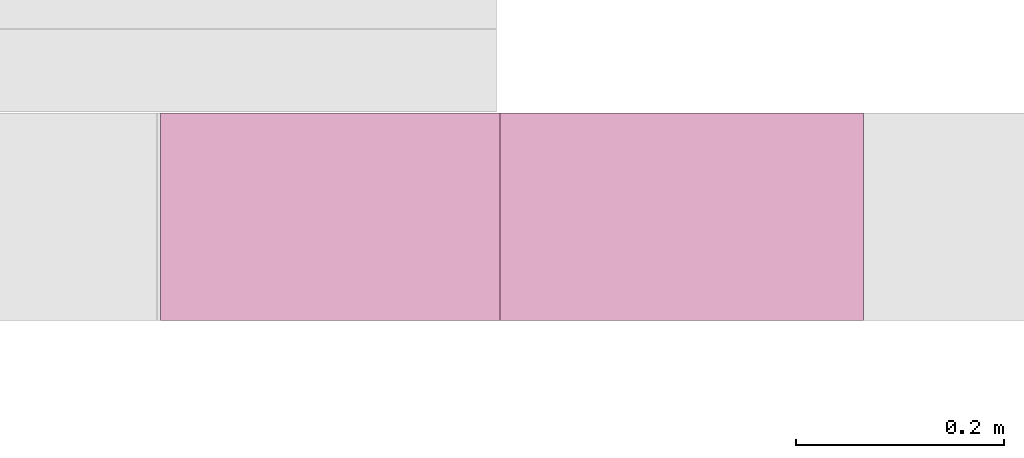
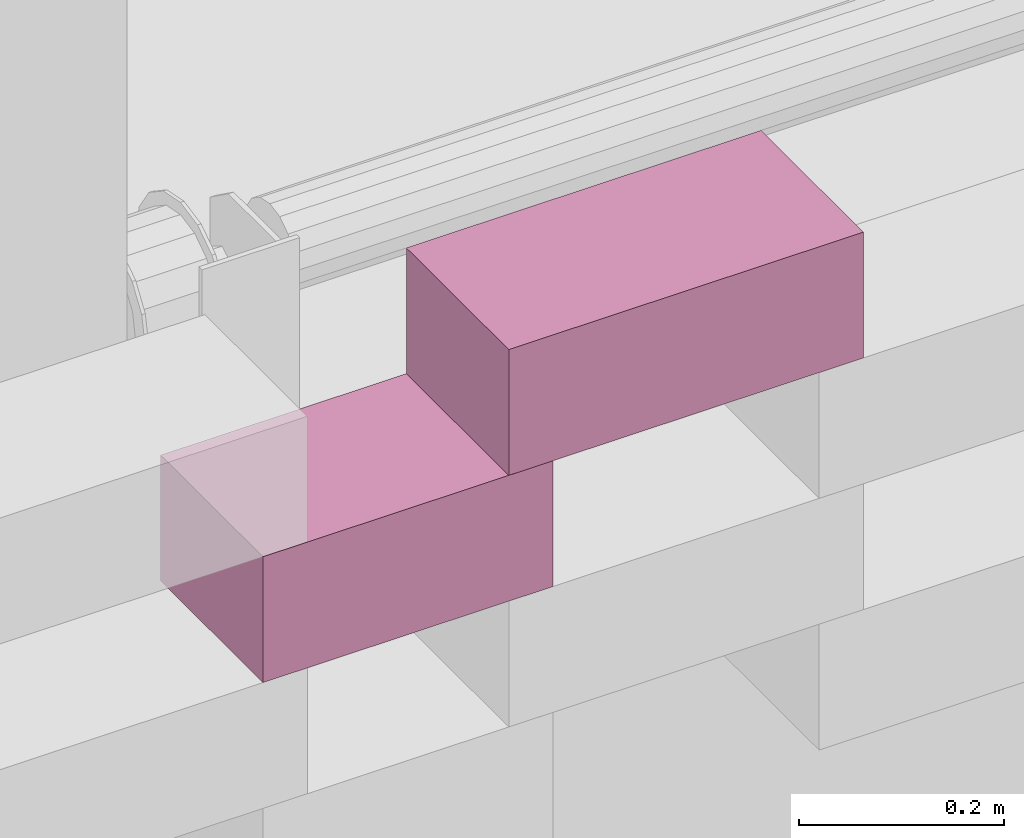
# One storey, part 62 of 62: 2 furnishings.
"""IFC2X3 building model written with IfcOpenShell, lengths in millimetres."""

from ifc_helpers import new_model, entity, si_unit, converted_unit, derived_unit, money_unit, direction, frame, origin_with_axes, place, context, subcontext, project, spatial, polyline, outline, extrude, material, type_object, element, save


model = new_model("IFC2X3")

# Units and contexts
model_context = context("Model", 3, precision=0.01, world=origin_with_axes(), true_north=direction((0.0, 1.0)))
body_context = subcontext(model_context, "Body", "Model", "MODEL_VIEW")
ifc_project = project(units=[si_unit("LENGTHUNIT", "METRE", prefix="MILLI"), si_unit("AREAUNIT", "SQUARE_METRE"), si_unit("VOLUMEUNIT", "CUBIC_METRE"), converted_unit("PLANEANGLEUNIT", "DEGREE", entity("IfcPlaneAngleMeasure", 0.0174532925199), si_unit("PLANEANGLEUNIT", "RADIAN"), dimensions=[0, 0, 0, 0, 0, 0, 0]), si_unit("SOLIDANGLEUNIT", "STERADIAN"), money_unit("EUR"), converted_unit("TIMEUNIT", "Year", entity("IfcTimeMeasure", 31556926.0), si_unit("TIMEUNIT", "SECOND"), dimensions=[0, 0, 1, 0, 0, 0, 0]), si_unit("MASSUNIT", "GRAM", prefix="KILO"), si_unit("THERMODYNAMICTEMPERATUREUNIT", "DEGREE_CELSIUS"), si_unit("LUMINOUSINTENSITYUNIT", "LUMEN"), si_unit("ENERGYUNIT", "JOULE", prefix="MEGA"), derived_unit("THERMALCONDUCTANCEUNIT", [(si_unit("POWERUNIT", "WATT"), 1), (si_unit("LENGTHUNIT", "METRE"), -1), (si_unit("THERMODYNAMICTEMPERATUREUNIT", "KELVIN"), -1)]), derived_unit("SPECIFICHEATCAPACITYUNIT", [(si_unit("ENERGYUNIT", "JOULE"), 1), (si_unit("MASSUNIT", "GRAM", prefix="KILO"), -1), (si_unit("THERMODYNAMICTEMPERATUREUNIT", "KELVIN"), -1)]), derived_unit("MASSDENSITYUNIT", [(si_unit("MASSUNIT", "GRAM", prefix="KILO"), 1), (si_unit("VOLUMEUNIT", "CUBIC_METRE"), -1)])], contexts=[model_context])

# Site, building, storey
site_placement = place(None, origin_with_axes())
site = spatial("IfcSite", under=ifc_project, at=site_placement, Name="KIRDE 14, ELVA", CompositionType="ELEMENT")
building_placement = place(site_placement, origin_with_axes())
building = spatial("IfcBuilding", under=site, at=building_placement, Name="PPA ja Päästeameti ühishoone", CompositionType="ELEMENT")
storey_placement = place(building_placement, origin_with_axes())
storey = spatial("IfcBuildingStorey", under=building, at=storey_placement, Name="Esimene korrus", CompositionType="ELEMENT", Elevation=0.0)

# Furnishings
ifc_material = material(Name="Air Space")
furniture_type = type_object("IfcFurnitureType", Name="Air Space 200", AssemblyPlace="NOTDEFINED")
furnishing_1_placement = place(storey_placement, frame((10376.5679148, -431.000104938, 4850.0), z_axis=(0.0, 0.0, 1.0), x_axis=(1.0, 0.0, 0.0)))
element("IfcFurnishingElement", 1, at=furnishing_1_placement, inside=storey, type_object=furniture_type, material=ifc_material, Name="plokk", context=body_context, shape_type="SweptSolid", body=[
    extrude(outline(polyline([(0.0, -200.0), (327.204635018, -200.0), (327.204635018, 0.0), (0.0, 0.0), (0.0, -200.0)])), origin_with_axes(), (0.0, 0.0, 1.0), 150.0),
])
furnishing_2_placement = place(storey_placement, frame((10653.7725501, -431.000102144, 5000.0), z_axis=(0.0, 0.0, 1.0), x_axis=(1.0, -2.32830643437e-09, 0.0)))
element("IfcFurnishingElement", 2, at=furnishing_2_placement, inside=storey, type_object=furniture_type, material=ifc_material, Name="plokk", context=body_context, shape_type="SweptSolid", body=[
    extrude(outline(polyline([(0.0, -200.0), (400.000000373, -200.0), (400.000000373, 0.0), (0.0, 0.0), (0.0, -200.0)])), origin_with_axes(), (0.0, 0.0, 1.0), 150.0),
])

save(model, "model.ifc")
